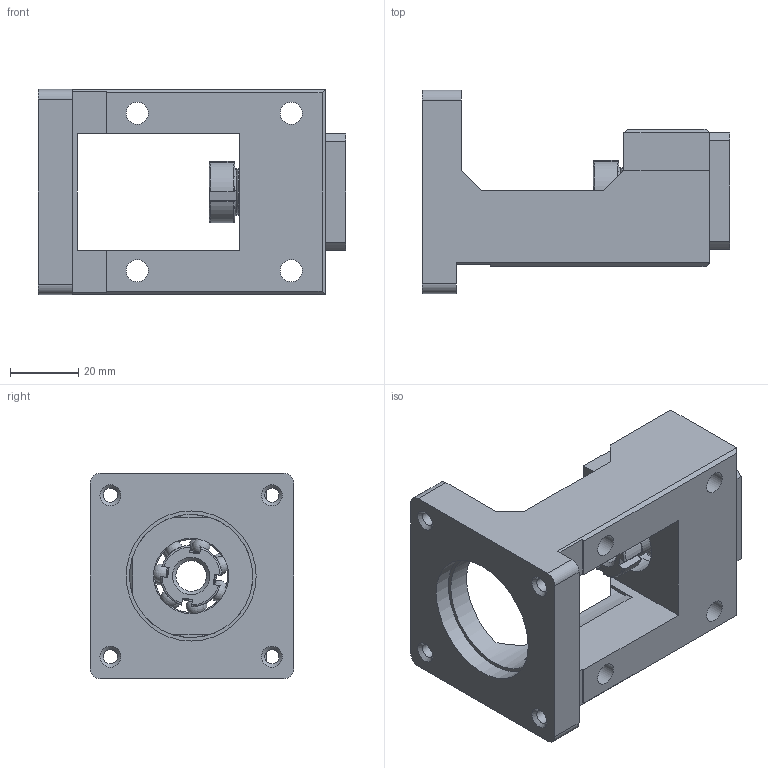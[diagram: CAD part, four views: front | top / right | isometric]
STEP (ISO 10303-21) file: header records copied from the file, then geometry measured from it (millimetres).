
FILE_DESCRIPTION(('STEP AP214'), '1');
FILE_NAME('HM10-057C5 - Êðîíøòåéí HM10', '', ('UNSPECIFIED'), ('UNSPECIFIED'), 'ASCON STEP Converter 1.6', 'ASCON Math Kernel', '');
FILE_SCHEMA(('AUTOMOTIVE_DESIGN { 1 0 10303 214 3 1 1}'));
Length unit declared in the file: millimetre
Products named in the file (1): HM10-057C5
Bounding box: 90 x 59.5 x 60 mm (x, y, z)
Volume: 101461.5 mm3; surface area: 40292.9 mm2
Topology: 27 solids, 27 shells, 302 faces, 742 edges, 476 vertices
Faces by surface type: plane 145, cylinder 75, cone 44, torus 24, sphere 14
Full cylindrical faces by diameter (mm): 3 x4, 3.242 x4, 4 x4, 4.134 x4, 4.5 x4, 6.5 x4, 7 x4, 7.5 x4, 8.917 x1, 10 x4, 10.5 x2, 14 x2, 14.68 x4, 21.32 x2, 22 x2, 26 x3, 26.5 x1, 36 x1, 38 x1
Entity records: 11480 total; most frequent: CARTESIAN_POINT 2284, DIRECTION 1402, ORIENTED_EDGE 1150, AXIS2_PLACEMENT_3D 575, EDGE_CURVE 575, EDGE_LOOP 458, VERTEX_POINT 439, COLOUR_RGB 328
